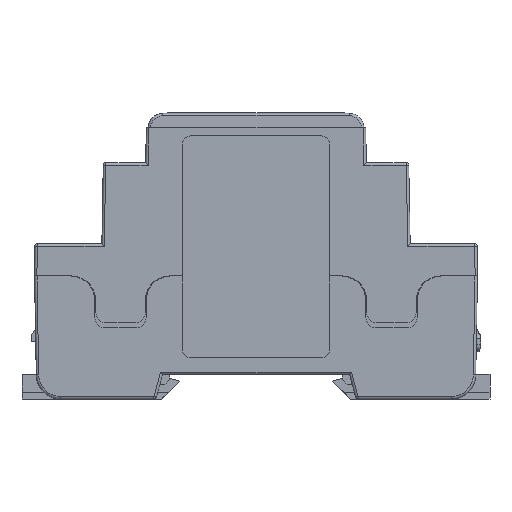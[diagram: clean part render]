
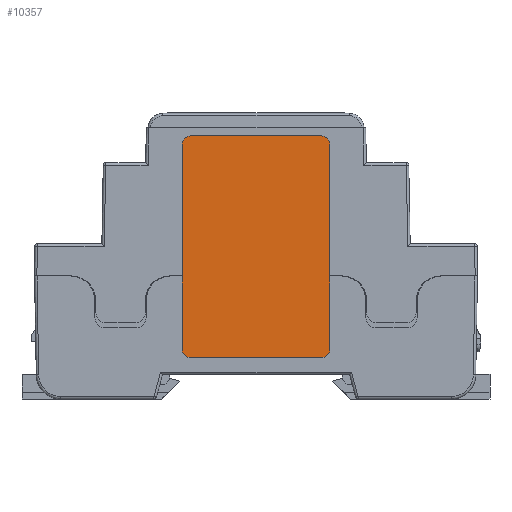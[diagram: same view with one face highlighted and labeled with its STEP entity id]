
A CAD part, left-side view. The second image highlights one B-rep face of the part: STEP entity #10357.
In plain terms, the highlighted planar face has unit normal (-1, 0, 0) as drawn and (0, 0, 1) by its records, which use the part's own axes.
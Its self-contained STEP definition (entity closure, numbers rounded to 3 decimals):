
#561 = ORIENTED_EDGE ( 'NONE', *, *, #20854, .T. ) ;
#722 = DIRECTION ( 'NONE',  ( 0., 0., -1. ) ) ;
#1961 = CARTESIAN_POINT ( 'NONE',  ( -22.5, -15., 0.2 ) ) ;
#4514 = CARTESIAN_POINT ( 'NONE',  ( 22.5, -13.3, 0.2 ) ) ;
#4693 = EDGE_CURVE ( 'NONE', #8634, #69441, #46805, .T. ) ;
#5449 = CARTESIAN_POINT ( 'NONE',  ( -20.8, 13.3, 0.2 ) ) ;
#8452 = CARTESIAN_POINT ( 'NONE',  ( 22.5, 13.3, 0.2 ) ) ;
#8634 = VERTEX_POINT ( 'NONE', #121082 ) ;
#10357 = ADVANCED_FACE ( 'NONE', ( #78159 ), #104233, .F. ) ;
#10646 = LINE ( 'NONE', #1961, #108167 ) ;
#13526 = VERTEX_POINT ( 'NONE', #89718 ) ;
#13560 = DIRECTION ( 'NONE',  ( 0., 0., 1. ) ) ;
#17468 = ORIENTED_EDGE ( 'NONE', *, *, #66741, .T. ) ;
#20254 = CIRCLE ( 'NONE', #46034, 1.7 ) ;
#20854 = EDGE_CURVE ( 'NONE', #96139, #79191, #55786, .T. ) ;
#22159 = VERTEX_POINT ( 'NONE', #92856 ) ;
#23827 = VECTOR ( 'NONE', #49705, 1000. ) ;
#26104 = DIRECTION ( 'NONE',  ( 0., 1., 0. ) ) ;
#27705 = CARTESIAN_POINT ( 'NONE',  ( -20.8, -15., 0.2 ) ) ;
#31891 = DIRECTION ( 'NONE',  ( -1., 0., 0. ) ) ;
#31983 = LINE ( 'NONE', #69796, #92349 ) ;
#33104 = VECTOR ( 'NONE', #26104, 1000. ) ;
#40483 = ORIENTED_EDGE ( 'NONE', *, *, #67185, .T. ) ;
#44055 = DIRECTION ( 'NONE',  ( -1., 0., 0. ) ) ;
#46034 = AXIS2_PLACEMENT_3D ( 'NONE', #46033, #46634, #104249 ) ;
#46033 = CARTESIAN_POINT ( 'NONE',  ( 20.8, 13.3, 0.2 ) ) ;
#46634 = DIRECTION ( 'NONE',  ( 0., 0., 1. ) ) ;
#46805 = CIRCLE ( 'NONE', #68570, 1.7 ) ;
#49705 = DIRECTION ( 'NONE',  ( -1., 0., 0. ) ) ;
#52016 = DIRECTION ( 'NONE',  ( -1., 0., 0. ) ) ;
#52810 = ORIENTED_EDGE ( 'NONE', *, *, #58136, .T. ) ;
#54023 = ORIENTED_EDGE ( 'NONE', *, *, #4693, .T. ) ;
#55786 = CIRCLE ( 'NONE', #61698, 1.7 ) ;
#57777 = DIRECTION ( 'NONE',  ( -1., 0., 0. ) ) ;
#58136 = EDGE_CURVE ( 'NONE', #91783, #22159, #20254, .T. ) ;
#61626 = DIRECTION ( 'NONE',  ( 0., 0., 1. ) ) ;
#61698 = AXIS2_PLACEMENT_3D ( 'NONE', #73760, #111556, #44055 ) ;
#66741 = EDGE_CURVE ( 'NONE', #69441, #96139, #31983, .T. ) ;
#67185 = EDGE_CURVE ( 'NONE', #79191, #13526, #10646, .T. ) ;
#68570 = AXIS2_PLACEMENT_3D ( 'NONE', #5449, #13560, #52016 ) ;
#69441 = VERTEX_POINT ( 'NONE', #103239 ) ;
#69796 = CARTESIAN_POINT ( 'NONE',  ( -22.5, -15., 0.2 ) ) ;
#73740 = CARTESIAN_POINT ( 'NONE',  ( -22.5, -13.3, 0.2 ) ) ;
#73760 = CARTESIAN_POINT ( 'NONE',  ( -20.8, -13.3, 0.2 ) ) ;
#73828 = LINE ( 'NONE', #83134, #33104 ) ;
#78159 = FACE_OUTER_BOUND ( 'NONE', #101619, .T. ) ;
#78286 = ORIENTED_EDGE ( 'NONE', *, *, #87729, .T. ) ;
#78786 = DIRECTION ( 'NONE',  ( 1., 0., 0. ) ) ;
#79191 = VERTEX_POINT ( 'NONE', #27705 ) ;
#79323 = ORIENTED_EDGE ( 'NONE', *, *, #104677, .T. ) ;
#83134 = CARTESIAN_POINT ( 'NONE',  ( 22.5, -15., 0.2 ) ) ;
#85652 = CARTESIAN_POINT ( 'NONE',  ( 0., 0., 0.2 ) ) ;
#86886 = LINE ( 'NONE', #107908, #23827 ) ;
#87729 = EDGE_CURVE ( 'NONE', #13526, #121719, #109288, .T. ) ;
#89718 = CARTESIAN_POINT ( 'NONE',  ( 20.8, -15., 0.2 ) ) ;
#91783 = VERTEX_POINT ( 'NONE', #8452 ) ;
#92349 = VECTOR ( 'NONE', #107592, 1000. ) ;
#92856 = CARTESIAN_POINT ( 'NONE',  ( 20.8, 15., 0.2 ) ) ;
#96139 = VERTEX_POINT ( 'NONE', #73740 ) ;
#101619 = EDGE_LOOP ( 'NONE', ( #40483, #78286, #119527, #52810, #79323, #54023, #17468, #561 ) ) ;
#101880 = AXIS2_PLACEMENT_3D ( 'NONE', #85652, #722, #57777 ) ;
#103239 = CARTESIAN_POINT ( 'NONE',  ( -22.5, 13.3, 0.2 ) ) ;
#104233 = PLANE ( 'NONE',  #101880 ) ;
#104249 = DIRECTION ( 'NONE',  ( -1., 0., 0. ) ) ;
#104677 = EDGE_CURVE ( 'NONE', #22159, #8634, #86886, .T. ) ;
#107592 = DIRECTION ( 'NONE',  ( 0., -1., 0. ) ) ;
#107908 = CARTESIAN_POINT ( 'NONE',  ( -22.5, 15., 0.2 ) ) ;
#108167 = VECTOR ( 'NONE', #78786, 1000. ) ;
#109288 = CIRCLE ( 'NONE', #113531, 1.7 ) ;
#109314 = CARTESIAN_POINT ( 'NONE',  ( 20.8, -13.3, 0.2 ) ) ;
#111556 = DIRECTION ( 'NONE',  ( 0., 0., 1. ) ) ;
#113531 = AXIS2_PLACEMENT_3D ( 'NONE', #109314, #61626, #31891 ) ;
#114863 = EDGE_CURVE ( 'NONE', #121719, #91783, #73828, .T. ) ;
#119527 = ORIENTED_EDGE ( 'NONE', *, *, #114863, .T. ) ;
#121082 = CARTESIAN_POINT ( 'NONE',  ( -20.8, 15., 0.2 ) ) ;
#121719 = VERTEX_POINT ( 'NONE', #4514 ) ;
